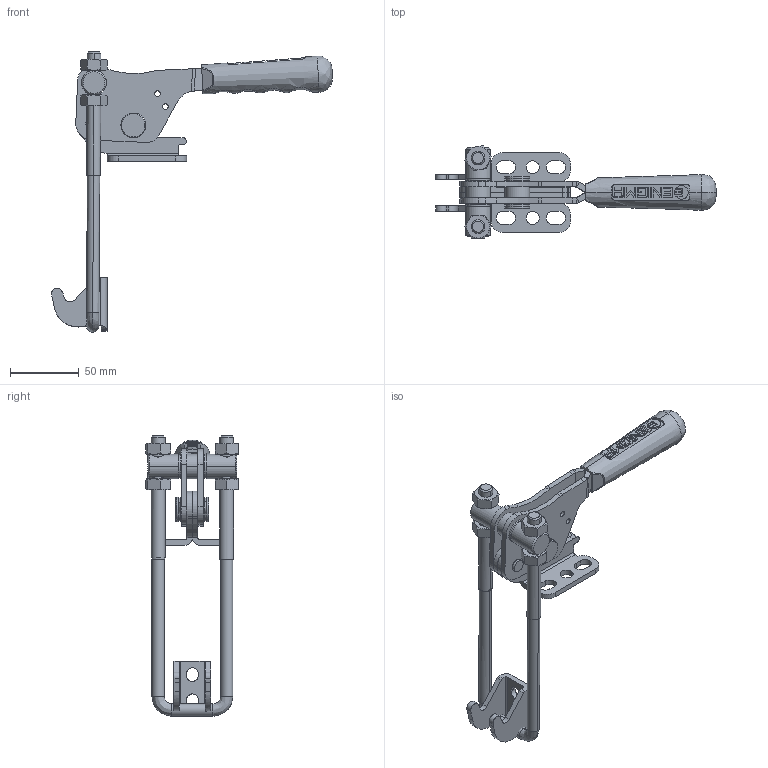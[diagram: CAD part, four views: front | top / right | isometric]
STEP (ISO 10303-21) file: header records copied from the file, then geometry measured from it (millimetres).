
FILE_DESCRIPTION (( 'STEP AP203' ), '1' );
FILE_NAME ('13210_Y.STEP', '2022-11-30T11:54:00', ( '' ), ( '' ), 'SwSTEP 2.0', 'SolidWorks 2023', '' );
FILE_SCHEMA (( 'CONFIG_CONTROL_DESIGN' ));
Length unit declared in the file: millimetre
Products named in the file (12): Mirror13110_H.KOLU_2022_Varsay_X2_0131_X0_lan; M8-M10_REV1_DefaultSM-FLAT-PATTERN; C95_Yeni_Tutamak_Varsay_X2_0131_X0_lan_1; 13210_Y; 13110_OTOMAT_Varsay_X2_0131_X0_lan; M10x90_U_KANCA_Varsay_X2_0131_X0_lan; 2022_13108_13110_Y_G_X2_00d6_X0_VDE_1_1; 13110_OTOMAT_2_Varsay_X2_0131_X0_lan; 6x21_PER_X2_00c70130_X0_N_Varsay_X2_0131_X0_lan; M10_S(SOMUN)_Varsay_X2_0131_X0_lan; 13110_H.KOLU_2022_Varsay_X2_0131_X0_lan; Mirror2022_13108_13110_Y_G_X2_00d6_X0_VDE_1_1
Assembly tree (14 placements, depth 2):
  13210_Y
    2022_13108_13110_Y_G_X2_00d6_X0_VDE_1_1
    13110_H.KOLU_2022_Varsay_X2_0131_X0_lan
    13110_OTOMAT_Varsay_X2_0131_X0_lan
    13110_OTOMAT_2_Varsay_X2_0131_X0_lan
    Mirror2022_13108_13110_Y_G_X2_00d6_X0_VDE_1_1
    Mirror13110_H.KOLU_2022_Varsay_X2_0131_X0_lan
    M10x90_U_KANCA_Varsay_X2_0131_X0_lan
    M8-M10_REV1_DefaultSM-FLAT-PATTERN
    C95_Yeni_Tutamak_Varsay_X2_0131_X0_lan_1
    6x21_PER_X2_00c70130_X0_N_Varsay_X2_0131_X0_lan
    M10_S(SOMUN)_Varsay_X2_0131_X0_lan  x4
Bounding box: 205.04 x 67.41 x 204.52 mm (x, y, z)
Volume: 155116.8 mm3; surface area: 78579.4 mm2
Topology: 14 solids, 14 shells, 611 faces, 1579 edges, 1017 vertices
Faces by surface type: plane 284, cylinder 201, cone 78, bspline 48
Entity records: 31517 total; most frequent: CARTESIAN_POINT 17236, ORIENTED_EDGE 2746, DIRECTION 2601, EDGE_CURVE 1373, AXIS2_PLACEMENT_3D 894, VERTEX_POINT 885, LINE 813, VECTOR 813
